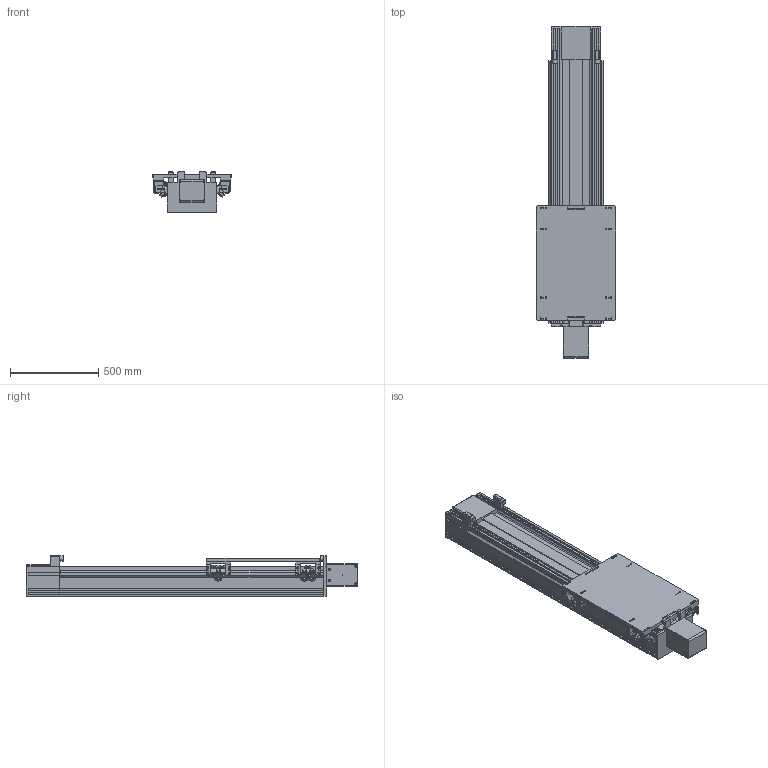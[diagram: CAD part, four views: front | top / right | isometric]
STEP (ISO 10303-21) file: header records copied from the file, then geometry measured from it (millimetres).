
FILE_DESCRIPTION((''),'2;1');
FILE_NAME('\\Tecnoc00\tecno center\Direzione Tecnica\ARCHIVIO DISEGNI\CAD\Modline\3D\serie T\Tc 280\Tcr 280.stp','2010-02-15T17:13:10',('sluciani'),(''),'Autodesk Inventor 2009','Autodesk Inventor 2009','');
FILE_SCHEMA(('AUTOMOTIVE_DESIGN { 1 0 10303 214 1 1 1 1 }'));
Length unit declared in the file: millimetre
Products named in the file (12): Tcr 280; Tlf Tcr_s_p 280; Piastra di coll; Profilo Pratyca; Tlm Tc 220_280; Cinghia L75; Guida a V 35x16; Piastra Tcr 280-1; 2040474-Pattino a 3 rotelle - 1 ecc; 2040475-Pattino a 3 rotelle - 1 ecc; 2042302-Pattino a 3 rotelle conc; 2041579-Pattino a 3 rotelle conc
Assembly tree (12 placements, depth 2):
  Tcr 280
    Tlf Tcr_s_p 280
    Piastra di coll
    Profilo Pratyca
    Tlm Tc 220_280
    Cinghia L75
    Guida a V 35x16  x2
    Piastra Tcr 280-1
    2040474-Pattino a 3 rotelle - 1 ecc
    2040475-Pattino a 3 rotelle - 1 ecc
    2042302-Pattino a 3 rotelle conc
    2041579-Pattino a 3 rotelle conc
Bounding box: 450 x 1885 x 231 mm (x, y, z)
Volume: 85515557.6 mm3; surface area: 4102644.4 mm2
Topology: 13 solids, 25 shells, 1505 faces, 3691 edges, 2401 vertices
Faces by surface type: plane 834, bspline 366, cylinder 211, torus 56, cone 32, sphere 6
Full cylindrical faces by diameter (mm): 5 x2, 6 x8, 8 x1, 8.5 x8, 10 x8, 13 x4, 14 x4, 15 x1, 16 x1, 20 x24, 24 x2, 30 x4, 40 x12
Entity records: 45227 total; most frequent: CARTESIAN_POINT 10333, ORIENTED_EDGE 6782, DIRECTION 6440, EDGE_CURVE 3391, VECTOR 2644, LINE 2644, VERTEX_POINT 2359, EDGE_LOOP 2016
